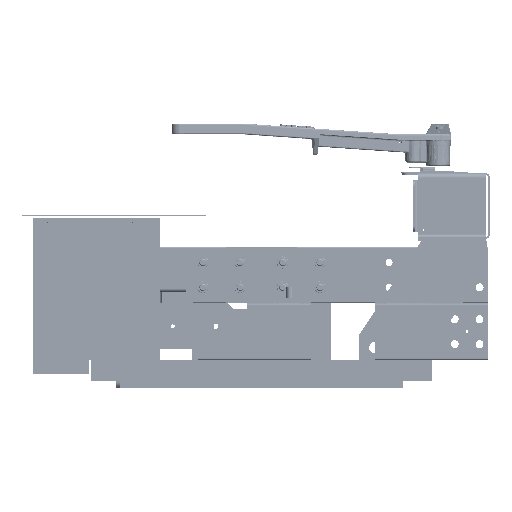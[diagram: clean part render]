
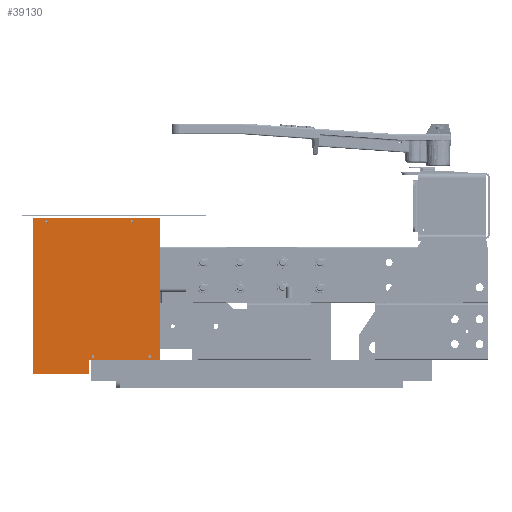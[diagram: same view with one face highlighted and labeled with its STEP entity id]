
A CAD part, left-side view. The second image highlights one B-rep face of the part: STEP entity #39130.
In plain terms, the highlighted planar face has unit normal (-1, 0, 0) as drawn and (0, 0, -1) by its records, which use the part's own axes.
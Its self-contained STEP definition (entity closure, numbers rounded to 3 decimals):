
#2442=FACE_BOUND('',#7375,.T.);
#2443=FACE_BOUND('',#7376,.T.);
#2444=FACE_BOUND('',#7377,.T.);
#2445=FACE_BOUND('',#7378,.T.);
#3167=PLANE('',#43193);
#4661=FACE_OUTER_BOUND('',#7374,.T.);
#7374=EDGE_LOOP('',(#31203,#31204,#31205,#31206,#31207,#31208));
#7375=EDGE_LOOP('',(#31209));
#7376=EDGE_LOOP('',(#31210));
#7377=EDGE_LOOP('',(#31211));
#7378=EDGE_LOOP('',(#31212));
#10237=LINE('',#62238,#13335);
#10241=LINE('',#62246,#13339);
#10244=LINE('',#62252,#13342);
#10247=LINE('',#62258,#13345);
#10250=LINE('',#62264,#13348);
#10253=LINE('',#62269,#13351);
#13335=VECTOR('',#50944,0.394);
#13339=VECTOR('',#50950,0.394);
#13342=VECTOR('',#50955,0.394);
#13345=VECTOR('',#50960,0.394);
#13348=VECTOR('',#50965,0.394);
#13351=VECTOR('',#50970,0.394);
#16015=CIRCLE('',#43177,0.097);
#16017=CIRCLE('',#43180,0.097);
#16019=CIRCLE('',#43183,0.097);
#16021=CIRCLE('',#43186,0.097);
#18545=VERTEX_POINT('',#62214);
#18547=VERTEX_POINT('',#62220);
#18549=VERTEX_POINT('',#62226);
#18551=VERTEX_POINT('',#62232);
#18552=VERTEX_POINT('',#62236);
#18553=VERTEX_POINT('',#62237);
#18556=VERTEX_POINT('',#62245);
#18558=VERTEX_POINT('',#62251);
#18560=VERTEX_POINT('',#62257);
#18562=VERTEX_POINT('',#62263);
#23051=EDGE_CURVE('',#18545,#18545,#16015,.T.);
#23054=EDGE_CURVE('',#18547,#18547,#16017,.T.);
#23057=EDGE_CURVE('',#18549,#18549,#16019,.T.);
#23060=EDGE_CURVE('',#18551,#18551,#16021,.T.);
#23061=EDGE_CURVE('',#18552,#18553,#10237,.T.);
#23065=EDGE_CURVE('',#18553,#18556,#10241,.T.);
#23068=EDGE_CURVE('',#18556,#18558,#10244,.T.);
#23071=EDGE_CURVE('',#18558,#18560,#10247,.T.);
#23074=EDGE_CURVE('',#18560,#18562,#10250,.T.);
#23077=EDGE_CURVE('',#18562,#18552,#10253,.T.);
#31203=ORIENTED_EDGE('',*,*,#23061,.F.);
#31204=ORIENTED_EDGE('',*,*,#23077,.F.);
#31205=ORIENTED_EDGE('',*,*,#23074,.F.);
#31206=ORIENTED_EDGE('',*,*,#23071,.F.);
#31207=ORIENTED_EDGE('',*,*,#23068,.F.);
#31208=ORIENTED_EDGE('',*,*,#23065,.F.);
#31209=ORIENTED_EDGE('',*,*,#23051,.T.);
#31210=ORIENTED_EDGE('',*,*,#23054,.T.);
#31211=ORIENTED_EDGE('',*,*,#23057,.T.);
#31212=ORIENTED_EDGE('',*,*,#23060,.T.);
#39130=ADVANCED_FACE('',(#4661,#2442,#2443,#2444,#2445),#3167,.F.);
#43177=AXIS2_PLACEMENT_3D('',#62216,#50919,#50920);
#43180=AXIS2_PLACEMENT_3D('',#62222,#50926,#50927);
#43183=AXIS2_PLACEMENT_3D('',#62228,#50933,#50934);
#43186=AXIS2_PLACEMENT_3D('',#62234,#50940,#50941);
#43193=AXIS2_PLACEMENT_3D('',#62271,#50972,#50973);
#50919=DIRECTION('center_axis',(0.,0.,1.));
#50920=DIRECTION('ref_axis',(-1.,0.,0.));
#50926=DIRECTION('center_axis',(0.,0.,1.));
#50927=DIRECTION('ref_axis',(-1.,0.,0.));
#50933=DIRECTION('center_axis',(0.,0.,1.));
#50934=DIRECTION('ref_axis',(-1.,0.,0.));
#50940=DIRECTION('center_axis',(0.,0.,1.));
#50941=DIRECTION('ref_axis',(-1.,0.,0.));
#50944=DIRECTION('',(0.,-1.,0.));
#50950=DIRECTION('',(1.,0.,0.));
#50955=DIRECTION('',(0.,1.,0.));
#50960=DIRECTION('',(1.,0.,0.));
#50965=DIRECTION('',(0.,1.,0.));
#50970=DIRECTION('',(-1.,0.,0.));
#50972=DIRECTION('center_axis',(0.,0.,1.));
#50973=DIRECTION('ref_axis',(1.,0.,0.));
#62214=CARTESIAN_POINT('',(9.847,4.75,-0.125));
#62216=CARTESIAN_POINT('Origin',(9.75,4.75,-0.125));
#62220=CARTESIAN_POINT('',(9.847,0.75,-0.125));
#62222=CARTESIAN_POINT('Origin',(9.75,0.75,-0.125));
#62226=CARTESIAN_POINT('',(0.347,8.,-0.125));
#62228=CARTESIAN_POINT('Origin',(0.25,8.,-0.125));
#62232=CARTESIAN_POINT('',(0.347,2.,-0.125));
#62234=CARTESIAN_POINT('Origin',(0.25,2.,-0.125));
#62236=CARTESIAN_POINT('',(0.,9.,-0.125));
#62237=CARTESIAN_POINT('',(0.,0.,-0.125));
#62238=CARTESIAN_POINT('',(0.,9.,-0.125));
#62245=CARTESIAN_POINT('',(10.,0.,-0.125));
#62246=CARTESIAN_POINT('',(0.,0.,-0.125));
#62251=CARTESIAN_POINT('',(10.,5.063,-0.125));
#62252=CARTESIAN_POINT('',(10.,0.,-0.125));
#62257=CARTESIAN_POINT('',(11.,5.063,-0.125));
#62258=CARTESIAN_POINT('',(10.,5.063,-0.125));
#62263=CARTESIAN_POINT('',(11.,9.,-0.125));
#62264=CARTESIAN_POINT('',(11.,5.063,-0.125));
#62269=CARTESIAN_POINT('',(11.,9.,-0.125));
#62271=CARTESIAN_POINT('Origin',(5.373,4.627,-0.125));
